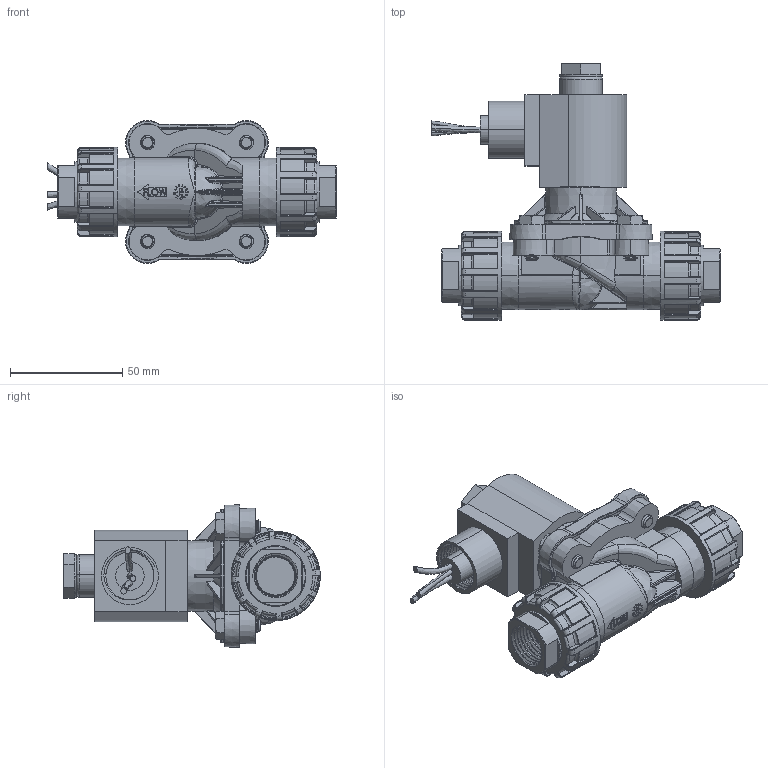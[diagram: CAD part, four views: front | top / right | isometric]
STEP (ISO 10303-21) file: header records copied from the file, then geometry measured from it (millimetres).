
FILE_DESCRIPTION (( 'STEP AP203' ), '1' );
FILE_NAME ('T202GxxxxPD2.STEP', '2024-05-06T16:24:20', ( '' ), ( '' ), 'SwSTEP 2.0', 'SolidWorks 2023', '' );
FILE_SCHEMA (( 'CONFIG_CONTROL_DESIGN' ));
Length unit declared in the file: millimetre
Products named in the file (1): T202GxxxxPD2
Bounding box: 128.42 x 114.13 x 63.5 mm (x, y, z)
Volume: 219981.5 mm3; surface area: 45550.4 mm2
Topology: 1 solids, 1 shells, 2465 faces, 6382 edges, 3889 vertices
Faces by surface type: bspline 893, plane 632, cylinder 380, torus 276, cone 199, sphere 85
Entity records: 121026 total; most frequent: CARTESIAN_POINT 68890, ORIENTED_EDGE 12538, DIRECTION 8526, EDGE_CURVE 6269, VERTEX_POINT 3886, AXIS2_PLACEMENT_3D 3200, EDGE_LOOP 2545, ADVANCED_FACE 2465
